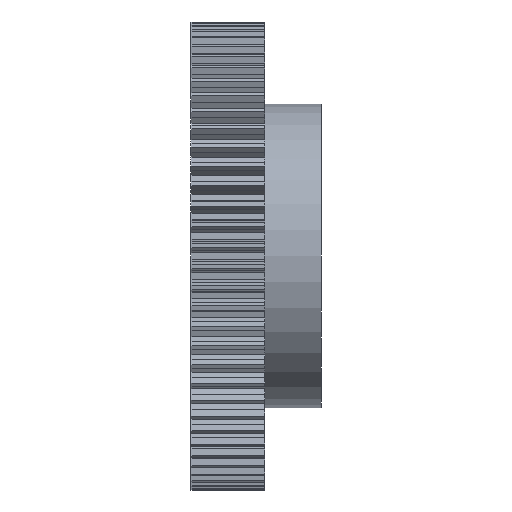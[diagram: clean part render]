
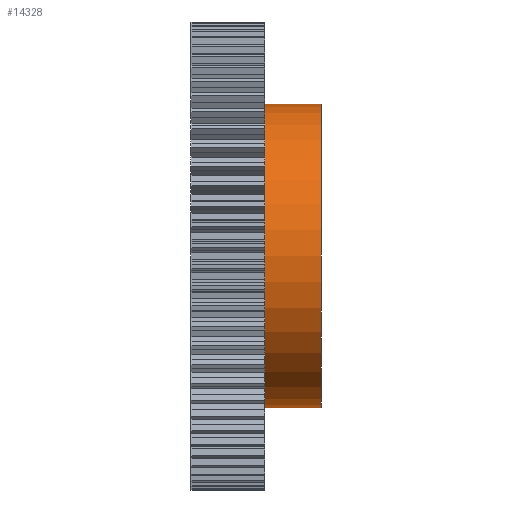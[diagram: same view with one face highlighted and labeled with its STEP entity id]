
A CAD part, front view. The second image highlights one B-rep face of the part: STEP entity #14328.
In plain terms, the highlighted cylindrical face has radius 35 mm (diameter 70 mm), a partial arc.
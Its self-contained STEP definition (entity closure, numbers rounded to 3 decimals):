
#113 = VERTEX_POINT ( 'NONE', #1228 ) ;
#115 = VERTEX_POINT ( 'NONE', #1223 ) ;
#121 = VERTEX_POINT ( 'NONE', #1226 ) ;
#123 = EDGE_CURVE ( 'NONE', #113, #121, #1225, .T. ) ;
#128 = VERTEX_POINT ( 'NONE', #1209 ) ;
#148 = EDGE_CURVE ( 'NONE', #128, #115, #1283, .T. ) ;
#883 = EDGE_CURVE ( 'NONE', #128, #113, #1754, .T. ) ;
#964 = EDGE_CURVE ( 'NONE', #121, #115, #1765, .T. ) ;
#1209 = CARTESIAN_POINT ( 'NONE',  ( 21.5, 0., -35. ) ) ;
#1217 = DIRECTION ( 'NONE',  ( -1., 0., 0. ) ) ;
#1218 = VECTOR ( 'NONE', #1217, 1000. ) ;
#1223 = CARTESIAN_POINT ( 'NONE',  ( 8.5, 0., -35. ) ) ;
#1224 = CARTESIAN_POINT ( 'NONE',  ( 8.5, 0., 35. ) ) ;
#1225 = LINE ( 'NONE', #1224, #1218 ) ;
#1226 = CARTESIAN_POINT ( 'NONE',  ( 8.5, 0., 35. ) ) ;
#1228 = CARTESIAN_POINT ( 'NONE',  ( 21.5, 0., 35. ) ) ;
#1279 = DIRECTION ( 'NONE',  ( -1., 0., 0. ) ) ;
#1280 = VECTOR ( 'NONE', #1279, 1000. ) ;
#1281 = CARTESIAN_POINT ( 'NONE',  ( 8.5, 0., -35. ) ) ;
#1283 = LINE ( 'NONE', #1281, #1280 ) ;
#1744 = DIRECTION ( 'NONE',  ( 0., 0., 1. ) ) ;
#1745 = DIRECTION ( 'NONE',  ( -1., 0., 0. ) ) ;
#1746 = CARTESIAN_POINT ( 'NONE',  ( 21.5, 0., 0. ) ) ;
#1750 = AXIS2_PLACEMENT_3D ( 'NONE', #1746, #1745, #1744 ) ;
#1754 = CIRCLE ( 'NONE', #1750, 35. ) ;
#1765 = CIRCLE ( 'NONE', #1776, 35. ) ;
#1776 = AXIS2_PLACEMENT_3D ( 'NONE', #1788, #1815, #1814 ) ;
#1788 = CARTESIAN_POINT ( 'NONE',  ( 8.5, 0., 0. ) ) ;
#1814 = DIRECTION ( 'NONE',  ( 0., 0., 1. ) ) ;
#1815 = DIRECTION ( 'NONE',  ( 1., 0., 0. ) ) ;
#9954 = CYLINDRICAL_SURFACE ( 'NONE', #10003, 35. ) ;
#9993 = DIRECTION ( 'NONE',  ( 0., 0., 1. ) ) ;
#9995 = DIRECTION ( 'NONE',  ( -1., 0., 0. ) ) ;
#9996 = CARTESIAN_POINT ( 'NONE',  ( 8.5, 0., 0. ) ) ;
#10002 = FACE_OUTER_BOUND ( 'NONE', #14225, .T. ) ;
#10003 = AXIS2_PLACEMENT_3D ( 'NONE', #9996, #9995, #9993 ) ;
#14188 = ORIENTED_EDGE ( 'NONE', *, *, #148, .F. ) ;
#14225 = EDGE_LOOP ( 'NONE', ( #14188, #14341, #14331, #14335 ) ) ;
#14328 = ADVANCED_FACE ( 'NONE', ( #10002 ), #9954, .T. ) ;
#14331 = ORIENTED_EDGE ( 'NONE', *, *, #123, .T. ) ;
#14335 = ORIENTED_EDGE ( 'NONE', *, *, #964, .T. ) ;
#14341 = ORIENTED_EDGE ( 'NONE', *, *, #883, .T. ) ;
